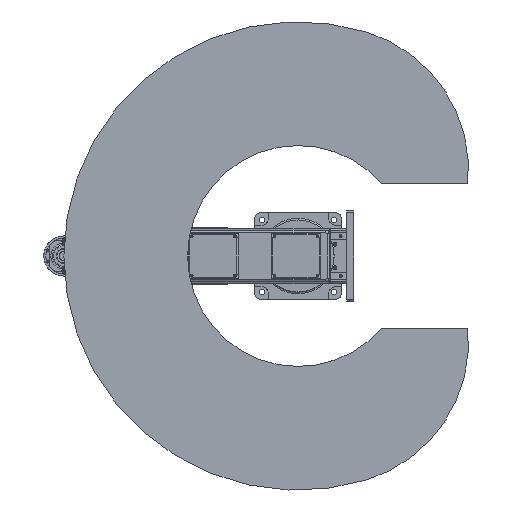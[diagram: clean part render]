
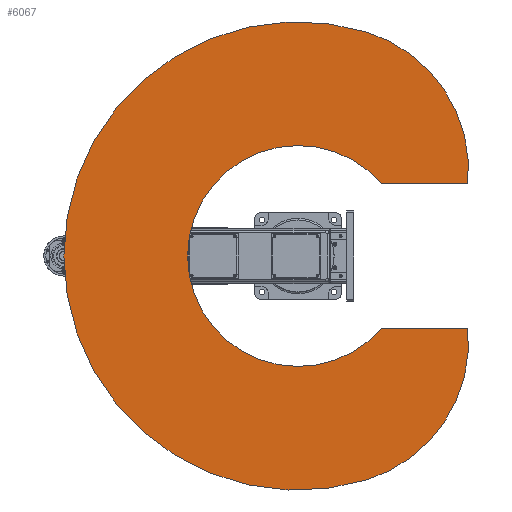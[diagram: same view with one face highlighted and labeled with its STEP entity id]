
A CAD part, front view. The second image highlights one B-rep face of the part: STEP entity #6067.
In plain terms, the highlighted planar face has unit normal (0, -1, 0).
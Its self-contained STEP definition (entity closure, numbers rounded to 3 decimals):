
#6067 = ADVANCED_FACE( '', ( #13525 ), #13526, .F. );
#13525 = FACE_OUTER_BOUND( '', #22867, .T. );
#13526 = PLANE( '', #22868 );
#22867 = EDGE_LOOP( '', ( #40061, #40062, #40063, #40064, #40065, #40066 ) );
#22868 = AXIS2_PLACEMENT_3D( '', #40067, #40068, #40069 );
#40061 = ORIENTED_EDGE( '', *, *, #53350, .F. );
#40062 = ORIENTED_EDGE( '', *, *, #53747, .F. );
#40063 = ORIENTED_EDGE( '', *, *, #53748, .T. );
#40064 = ORIENTED_EDGE( '', *, *, #50912, .F. );
#40065 = ORIENTED_EDGE( '', *, *, #51310, .F. );
#40066 = ORIENTED_EDGE( '', *, *, #50461, .F. );
#40067 = CARTESIAN_POINT( '', ( 239.076, 0., 73.093 ) );
#40068 = DIRECTION( '', ( 0., 1., 0. ) );
#40069 = DIRECTION( '', ( 0., 0., 1. ) );
#50461 = EDGE_CURVE( '', #60777, #60778, #60779, .T. );
#50912 = EDGE_CURVE( '', #61494, #61495, #61496, .T. );
#51310 = EDGE_CURVE( '', #60778, #61494, #62109, .T. );
#53350 = EDGE_CURVE( '', #64981, #60777, #64982, .T. );
#53747 = EDGE_CURVE( '', #65485, #64981, #65486, .T. );
#53748 = EDGE_CURVE( '', #65485, #61495, #65487, .T. );
#60777 = VERTEX_POINT( '', #76263 );
#60778 = VERTEX_POINT( '', #76264 );
#60779 = CIRCLE( '', #76265, 650. );
#61494 = VERTEX_POINT( '', #77273 );
#61495 = VERTEX_POINT( '', #77274 );
#61496 = LINE( '', #77275, #77276 );
#62109 = CIRCLE( '', #78269, 400. );
#64981 = VERTEX_POINT( '', #82958 );
#64982 = CIRCLE( '', #82959, 400. );
#65485 = VERTEX_POINT( '', #83847 );
#65486 = LINE( '', #83848, #83849 );
#65487 = CIRCLE( '', #83850, 306.5 );
#76263 = CARTESIAN_POINT( '', ( 621.598, 0., 190.042 ) );
#76264 = CARTESIAN_POINT( '', ( -621.598, 0., 190.042 ) );
#76265 = AXIS2_PLACEMENT_3D( '', #91125, #91126, #91127 );
#77273 = CARTESIAN_POINT( '', ( -200., 0., 471.18 ) );
#77274 = CARTESIAN_POINT( '', ( -200., 0., 232.255 ) );
#77275 = CARTESIAN_POINT( '', ( -200., 0., 471.18 ) );
#77276 = VECTOR( '', #91733, 1000. );
#78269 = AXIS2_PLACEMENT_3D( '', #92198, #92199, #92200 );
#82958 = CARTESIAN_POINT( '', ( 200., 0., 471.18 ) );
#82959 = AXIS2_PLACEMENT_3D( '', #94470, #94471, #94472 );
#83847 = CARTESIAN_POINT( '', ( 200., 0., 232.255 ) );
#83848 = CARTESIAN_POINT( '', ( 200., 0., 232.255 ) );
#83849 = VECTOR( '', #94821, 1000. );
#83850 = AXIS2_PLACEMENT_3D( '', #94822, #94823, #94824 );
#91125 = CARTESIAN_POINT( '', ( 0., 0., 0. ) );
#91126 = DIRECTION( '', ( 0., 1., 0. ) );
#91127 = DIRECTION( '', ( 1., 0., 0. ) );
#91733 = DIRECTION( '', ( 0., 0., -1. ) );
#92198 = CARTESIAN_POINT( '', ( -239.076, 0., 73.093 ) );
#92199 = DIRECTION( '', ( 0., 1., 0. ) );
#92200 = DIRECTION( '', ( 1., 0., 0. ) );
#94470 = CARTESIAN_POINT( '', ( 239.076, 0., 73.093 ) );
#94471 = DIRECTION( '', ( 0., 1., 0. ) );
#94472 = DIRECTION( '', ( 1., 0., 0. ) );
#94821 = DIRECTION( '', ( 0., 0., 1. ) );
#94822 = CARTESIAN_POINT( '', ( 0., 0., 0. ) );
#94823 = DIRECTION( '', ( 0., 1., 0. ) );
#94824 = DIRECTION( '', ( 1., 0., 0. ) );
